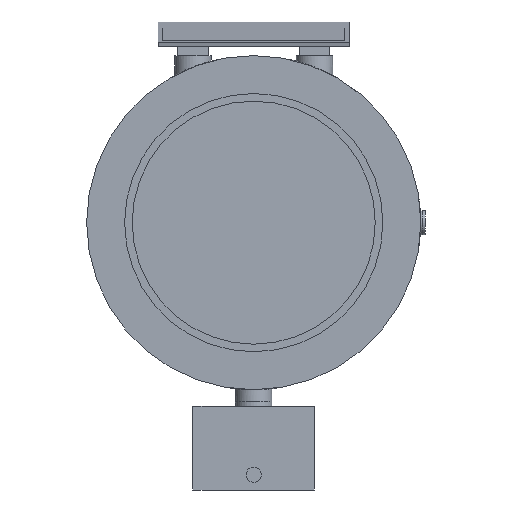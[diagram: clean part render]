
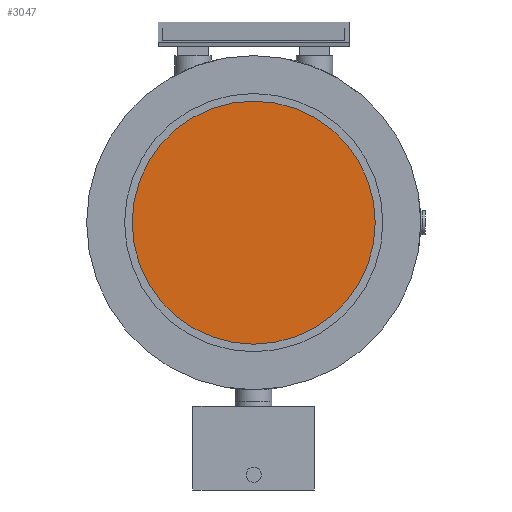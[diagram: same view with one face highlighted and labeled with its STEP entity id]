
A CAD part, front view. The second image highlights one B-rep face of the part: STEP entity #3047.
In plain terms, the highlighted planar face has unit normal (0, -1, 0).
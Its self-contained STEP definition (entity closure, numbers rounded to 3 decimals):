
#3019 = VERTEX_POINT('',#3020);
#3020 = CARTESIAN_POINT('',(80.,-33.,110.));
#3036 = EDGE_CURVE('',#3019,#3019,#3037,.T.);
#3037 = CIRCLE('',#3038,80.);
#3038 = AXIS2_PLACEMENT_3D('',#3039,#3040,#3041);
#3039 = CARTESIAN_POINT('',(0.,-33.,110.));
#3040 = DIRECTION('',(0.,1.,0.));
#3041 = DIRECTION('',(1.,0.,0.));
#3047 = ADVANCED_FACE('',(#3048),#3051,.F.);
#3048 = FACE_BOUND('',#3049,.T.);
#3049 = EDGE_LOOP('',(#3050));
#3050 = ORIENTED_EDGE('',*,*,#3036,.F.);
#3051 = PLANE('',#3052);
#3052 = AXIS2_PLACEMENT_3D('',#3053,#3054,#3055);
#3053 = CARTESIAN_POINT('',(0.,-33.,110.));
#3054 = DIRECTION('',(0.,1.,0.));
#3055 = DIRECTION('',(1.,0.,0.));
